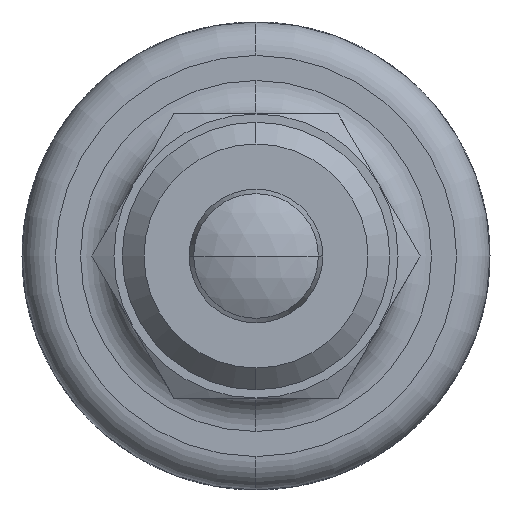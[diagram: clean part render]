
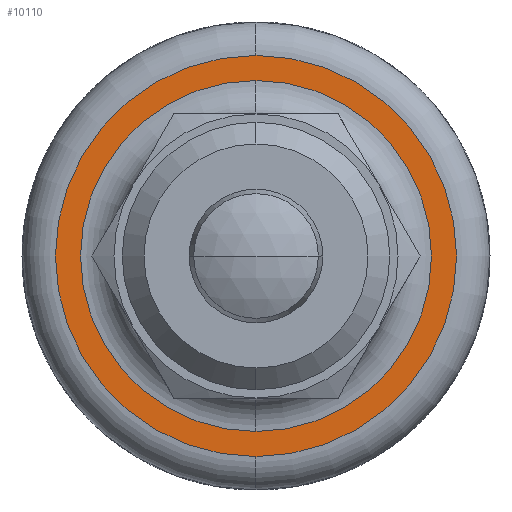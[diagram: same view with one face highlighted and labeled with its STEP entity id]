
A CAD part, front view. The second image highlights one B-rep face of the part: STEP entity #10110.
In plain terms, the highlighted planar face has unit normal (0, -1, 0).
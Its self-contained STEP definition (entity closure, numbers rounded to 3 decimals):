
#4253 = CARTESIAN_POINT ( 'NONE',  ( 0., 16., -12. ) ) ;
#4254 = CARTESIAN_POINT ( 'NONE',  ( 0., 16., 12. ) ) ;
#4349 = CARTESIAN_POINT ( 'NONE',  ( 0., 16., -10.5 ) ) ;
#4350 = DIRECTION ( 'NONE',  ( 0., 0., 1. ) ) ;
#4351 = DIRECTION ( 'NONE',  ( 0., 1., 0. ) ) ;
#4352 = CARTESIAN_POINT ( 'NONE',  ( 0., 16., 0. ) ) ;
#4353 = AXIS2_PLACEMENT_3D ( 'NONE', #4352, #4351, #4350 ) ;
#4354 = CIRCLE ( 'NONE', #4353, 10.5 ) ;
#4355 = CARTESIAN_POINT ( 'NONE',  ( 0., 16., 10.5 ) ) ;
#4423 = DIRECTION ( 'NONE',  ( 0., 0., 1. ) ) ;
#4424 = DIRECTION ( 'NONE',  ( 0., -1., 0. ) ) ;
#4425 = AXIS2_PLACEMENT_3D ( 'NONE', #4432, #4424, #4423 ) ;
#4426 = CIRCLE ( 'NONE', #4425, 12. ) ;
#4432 = CARTESIAN_POINT ( 'NONE',  ( 0., 16., 0. ) ) ;
#4560 = CARTESIAN_POINT ( 'NONE',  ( 0., 16., 0. ) ) ;
#4561 = DIRECTION ( 'NONE',  ( 0., 0., 1. ) ) ;
#4562 = DIRECTION ( 'NONE',  ( 0., -1., 0. ) ) ;
#4563 = CARTESIAN_POINT ( 'NONE',  ( 0., 16., 0. ) ) ;
#4564 = AXIS2_PLACEMENT_3D ( 'NONE', #4563, #4562, #4561 ) ;
#4565 = CIRCLE ( 'NONE', #4564, 12. ) ;
#4607 = DIRECTION ( 'NONE',  ( 0., 0., 1. ) ) ;
#4608 = DIRECTION ( 'NONE',  ( 0., 1., 0. ) ) ;
#4609 = CARTESIAN_POINT ( 'NONE',  ( 0., 16., 0. ) ) ;
#4611 = AXIS2_PLACEMENT_3D ( 'NONE', #4609, #4608, #4607 ) ;
#4612 = PLANE ( 'NONE',  #4611 ) ;
#4613 = FACE_OUTER_BOUND ( 'NONE', #10104, .T. ) ;
#4614 = FACE_BOUND ( 'NONE', #10102, .T. ) ;
#4615 = DIRECTION ( 'NONE',  ( 0., 0., 1. ) ) ;
#4616 = DIRECTION ( 'NONE',  ( 0., 1., 0. ) ) ;
#4617 = AXIS2_PLACEMENT_3D ( 'NONE', #4560, #4616, #4615 ) ;
#4618 = CIRCLE ( 'NONE', #4617, 10.5 ) ;
#8610 = VERTEX_POINT ( 'NONE', #4254 ) ;
#8612 = VERTEX_POINT ( 'NONE', #4253 ) ;
#8663 = VERTEX_POINT ( 'NONE', #4355 ) ;
#8664 = EDGE_CURVE ( 'NONE', #8665, #8663, #4354, .T. ) ;
#8665 = VERTEX_POINT ( 'NONE', #4349 ) ;
#8685 = EDGE_CURVE ( 'NONE', #8612, #8610, #4426, .T. ) ;
#10097 = ORIENTED_EDGE ( 'NONE', *, *, #8685, .T. ) ;
#10099 = ORIENTED_EDGE ( 'NONE', *, *, #10100, .T. ) ;
#10100 = EDGE_CURVE ( 'NONE', #8610, #8612, #4565, .T. ) ;
#10102 = EDGE_LOOP ( 'NONE', ( #10105, #10103 ) ) ;
#10103 = ORIENTED_EDGE ( 'NONE', *, *, #8664, .T. ) ;
#10104 = EDGE_LOOP ( 'NONE', ( #10099, #10097 ) ) ;
#10105 = ORIENTED_EDGE ( 'NONE', *, *, #10106, .T. ) ;
#10106 = EDGE_CURVE ( 'NONE', #8663, #8665, #4618, .T. ) ;
#10110 = ADVANCED_FACE ( 'NONE', ( #4614, #4613 ), #4612, .F. ) ;
